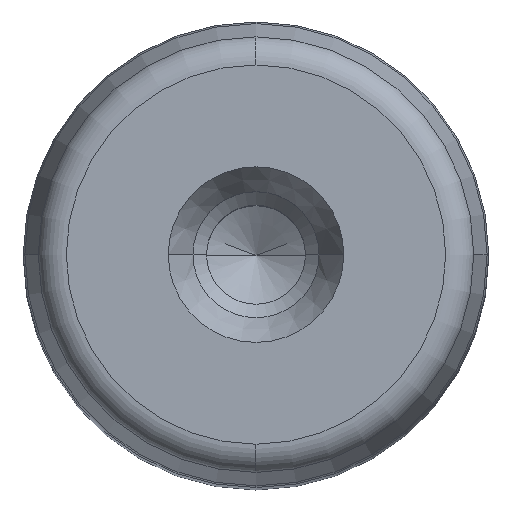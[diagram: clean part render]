
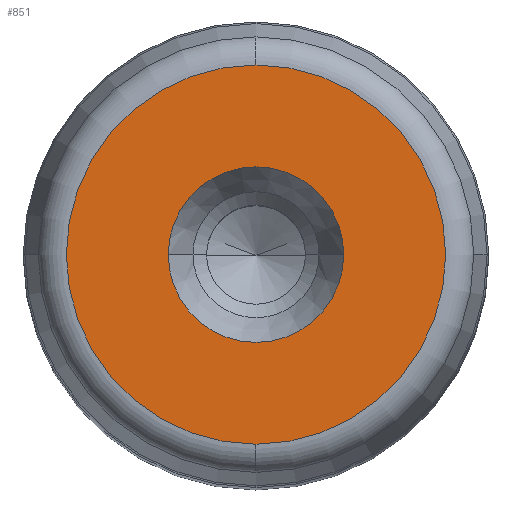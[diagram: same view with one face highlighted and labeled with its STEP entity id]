
A CAD part, top view. The second image highlights one B-rep face of the part: STEP entity #851.
In plain terms, the highlighted planar face has unit normal (0, 0, 1) as drawn and (0, 1, 0) by its records, which use the part's own axes.
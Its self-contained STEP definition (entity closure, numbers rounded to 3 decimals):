
#281=CARTESIAN_POINT('',(9.05,160.0,0.0));
#282=VERTEX_POINT('',#281);
#289=CARTESIAN_POINT('',(-9.05,160.0,0.));
#290=VERTEX_POINT('',#289);
#291=CARTESIAN_POINT('',(0.0,160.0,0.0));
#292=DIRECTION('',(0.0,1.0,0.0));
#293=DIRECTION('',(1.0,0.0,0.0));
#294=AXIS2_PLACEMENT_3D('',#291,#292,#293);
#295=CIRCLE('',#294,9.05);
#296=EDGE_CURVE('',#282,#290,#295,.T.);
#313=CARTESIAN_POINT('',(0.0,160.0,19.554));
#314=VERTEX_POINT('',#313);
#324=CARTESIAN_POINT('',(0.,160.0,-19.554));
#325=VERTEX_POINT('',#324);
#326=CARTESIAN_POINT('',(0.0,160.0,0.0));
#327=DIRECTION('',(0.0,1.0,0.0));
#328=DIRECTION('',(1.0,0.0,0.0));
#329=AXIS2_PLACEMENT_3D('',#326,#327,#328);
#330=CIRCLE('',#329,19.554);
#331=EDGE_CURVE('',#325,#314,#330,.T.);
#812=CARTESIAN_POINT('',(19.554,160.0,0.0));
#813=VERTEX_POINT('',#812);
#814=CARTESIAN_POINT('',(0.0,160.0,0.0));
#815=DIRECTION('',(0.0,1.0,0.0));
#816=DIRECTION('',(1.0,0.0,0.0));
#817=AXIS2_PLACEMENT_3D('',#814,#815,#816);
#818=CIRCLE('',#817,19.554);
#819=EDGE_CURVE('',#813,#325,#818,.T.);
#821=CARTESIAN_POINT('',(0.0,160.0,0.0));
#822=DIRECTION('',(0.0,1.0,0.0));
#823=DIRECTION('',(1.0,0.0,0.0));
#824=AXIS2_PLACEMENT_3D('',#821,#822,#823);
#825=CIRCLE('',#824,19.554);
#826=EDGE_CURVE('',#314,#813,#825,.T.);
#831=CARTESIAN_POINT('',(-21.51,160.0,-21.51));
#832=DIRECTION('',(0.0,1.0,0.0));
#833=DIRECTION('',(0.0,0.0,1.0));
#834=AXIS2_PLACEMENT_3D('',#831,#832,#833);
#835=PLANE('',#834);
#836=ORIENTED_EDGE('',*,*,#819,.T.);
#837=ORIENTED_EDGE('',*,*,#331,.T.);
#838=ORIENTED_EDGE('',*,*,#826,.T.);
#839=EDGE_LOOP('',(#836,#837,#838));
#840=FACE_OUTER_BOUND('',#839,.T.);
#841=ORIENTED_EDGE('',*,*,#296,.F.);
#842=CARTESIAN_POINT('',(0.0,160.0,0.0));
#843=DIRECTION('',(0.0,1.0,0.0));
#844=DIRECTION('',(1.0,0.0,0.0));
#845=AXIS2_PLACEMENT_3D('',#842,#843,#844);
#846=CIRCLE('',#845,9.05);
#847=EDGE_CURVE('',#290,#282,#846,.T.);
#848=ORIENTED_EDGE('',*,*,#847,.F.);
#849=EDGE_LOOP('',(#841,#848));
#850=FACE_BOUND('',#849,.T.);
#851=ADVANCED_FACE('',(#840,#850),#835,.T.);
